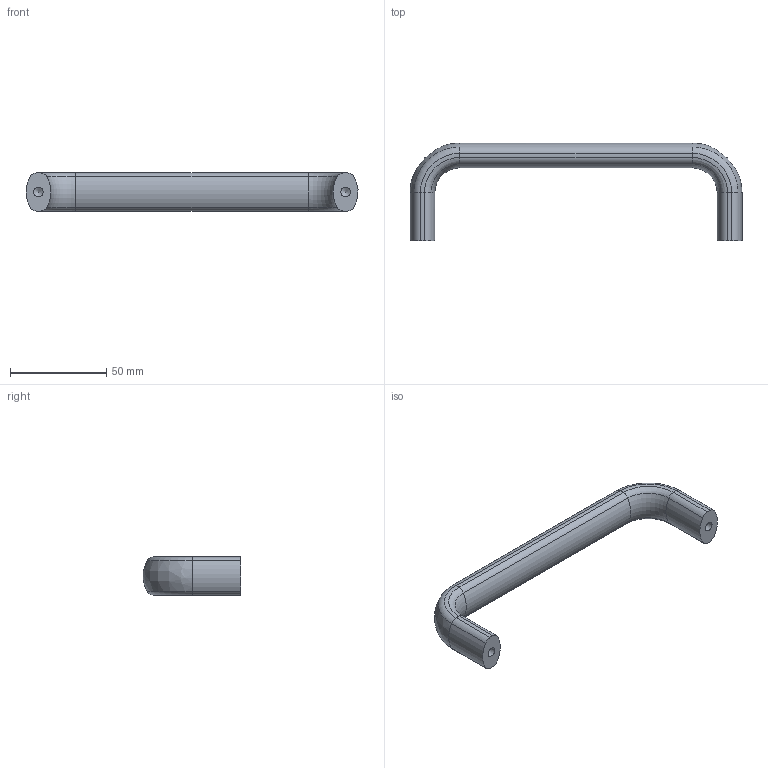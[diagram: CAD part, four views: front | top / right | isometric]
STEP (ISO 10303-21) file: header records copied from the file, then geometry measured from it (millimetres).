
FILE_DESCRIPTION( ( 'STEP AP203' ), '1' );
FILE_NAME( 'C:/Temp/Ganter_Step_05_03_2020/data/1_2/gn_565/Cabinet ''''U'''' handle GN 565-20-160-SR.stp', '2020-03-05T10:08:47', ( 'License CC BY-ND 4.0' ), ( 'CADENAS' ), ' ', 'PARTsolutions', ' ' );
FILE_SCHEMA( ( 'CONFIG_CONTROL_DESIGN' ) );
Length unit declared in the file: millimetre
Products named in the file (1): _Cabinet ''U'' handle GN 565-20-160-SR
Bounding box: 172.91 x 50.97 x 19.99 mm (x, y, z)
Volume: 48261.1 mm3; surface area: 13175.8 mm2
Topology: 1 solids, 1 shells, 53 faces, 128 edges, 77 vertices
Faces by surface type: cylinder 26, torus 14, plane 9, bspline 2, cone 2
Full cylindrical faces by diameter (mm): 4.917 x2
Entity records: 1640 total; most frequent: CARTESIAN_POINT 337, DIRECTION 304, ORIENTED_EDGE 244, AXIS2_PLACEMENT_3D 140, EDGE_CURVE 122, CIRCLE 88, VERTEX_POINT 77, EDGE_LOOP 57
